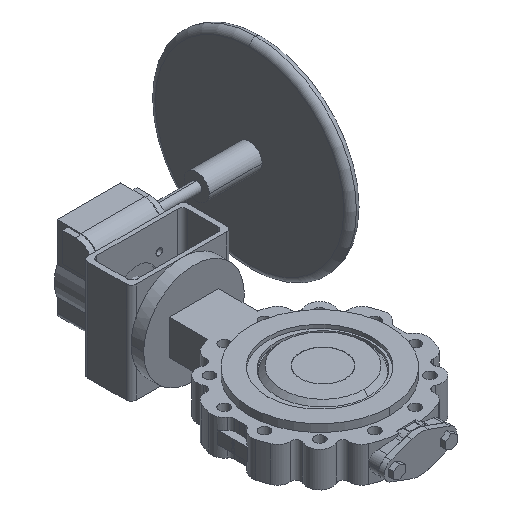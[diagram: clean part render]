
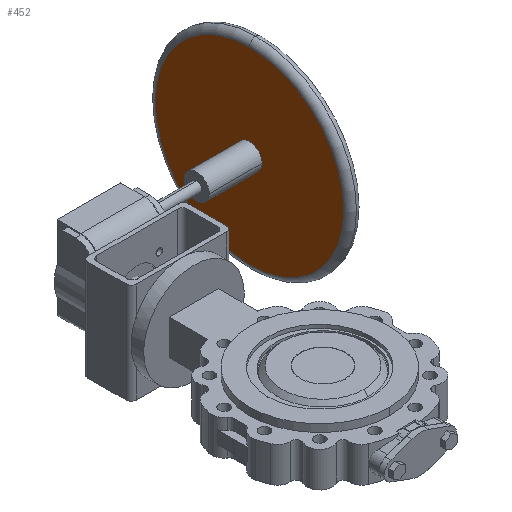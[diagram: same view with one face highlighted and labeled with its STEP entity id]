
A CAD part, isometric view. The second image highlights one B-rep face of the part: STEP entity #452.
In plain terms, the highlighted planar face has unit normal (-1, 0, 0).
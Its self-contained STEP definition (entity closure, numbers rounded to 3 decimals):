
#452 = ADVANCED_FACE( '', ( #1191, #1192 ), #1193, .T. );
#1191 = FACE_OUTER_BOUND( '', #1951, .T. );
#1192 = FACE_BOUND( '', #1952, .T. );
#1193 = PLANE( '', #1953 );
#1951 = EDGE_LOOP( '', ( #4716, #4717, #4718 ) );
#1952 = EDGE_LOOP( '', ( #4719, #4720 ) );
#1953 = AXIS2_PLACEMENT_3D( '', #4721, #4722, #4723 );
#4716 = ORIENTED_EDGE( '', *, *, #5670, .F. );
#4717 = ORIENTED_EDGE( '', *, *, #5669, .F. );
#4718 = ORIENTED_EDGE( '', *, *, #5666, .F. );
#4719 = ORIENTED_EDGE( '', *, *, #5682, .T. );
#4720 = ORIENTED_EDGE( '', *, *, #5769, .T. );
#4721 = CARTESIAN_POINT( '', ( 272., 517.75, 71. ) );
#4722 = DIRECTION( '', ( -1., 0., 0. ) );
#4723 = DIRECTION( '', ( 0., -1., 0. ) );
#5666 = EDGE_CURVE( '', #7111, #7113, #7114, .T. );
#5669 = EDGE_CURVE( '', #7113, #7117, #7118, .T. );
#5670 = EDGE_CURVE( '', #7117, #7111, #7119, .T. );
#5682 = EDGE_CURVE( '', #7136, #7140, #7142, .T. );
#5769 = EDGE_CURVE( '', #7140, #7136, #7286, .T. );
#7111 = VERTEX_POINT( '', #9814 );
#7113 = VERTEX_POINT( '', #9816 );
#7114 = CIRCLE( '', #9817, 187.5 );
#7117 = VERTEX_POINT( '', #9820 );
#7118 = CIRCLE( '', #9821, 187.5 );
#7119 = CIRCLE( '', #9822, 187.5 );
#7136 = VERTEX_POINT( '', #9841 );
#7140 = VERTEX_POINT( '', #9846 );
#7142 = CIRCLE( '', #9849, 25. );
#7286 = CIRCLE( '', #10065, 25. );
#9814 = CARTESIAN_POINT( '', ( 272., 411.5, 258.5 ) );
#9816 = CARTESIAN_POINT( '', ( 272., 411.5, -116.5 ) );
#9817 = AXIS2_PLACEMENT_3D( '', #11673, #11674, #11675 );
#9820 = CARTESIAN_POINT( '', ( 272., 599., 71. ) );
#9821 = AXIS2_PLACEMENT_3D( '', #11682, #11683, #11684 );
#9822 = AXIS2_PLACEMENT_3D( '', #11685, #11686, #11687 );
#9841 = CARTESIAN_POINT( '', ( 272., 436.5, 71. ) );
#9846 = CARTESIAN_POINT( '', ( 272., 386.5, 71. ) );
#9849 = AXIS2_PLACEMENT_3D( '', #11713, #11714, #11715 );
#10065 = AXIS2_PLACEMENT_3D( '', #11830, #11831, #11832 );
#11673 = CARTESIAN_POINT( '', ( 272., 411.5, 71. ) );
#11674 = DIRECTION( '', ( 1., 0., 0. ) );
#11675 = DIRECTION( '', ( 0., 1., 0. ) );
#11682 = CARTESIAN_POINT( '', ( 272., 411.5, 71. ) );
#11683 = DIRECTION( '', ( 1., 0., 0. ) );
#11684 = DIRECTION( '', ( 0., 1., 0. ) );
#11685 = CARTESIAN_POINT( '', ( 272., 411.5, 71. ) );
#11686 = DIRECTION( '', ( 1., 0., 0. ) );
#11687 = DIRECTION( '', ( 0., 1., 0. ) );
#11713 = CARTESIAN_POINT( '', ( 272., 411.5, 71. ) );
#11714 = DIRECTION( '', ( 1., 0., 0. ) );
#11715 = DIRECTION( '', ( 0., 1., 0. ) );
#11830 = CARTESIAN_POINT( '', ( 272., 411.5, 71. ) );
#11831 = DIRECTION( '', ( 1., 0., 0. ) );
#11832 = DIRECTION( '', ( 0., 1., 0. ) );
